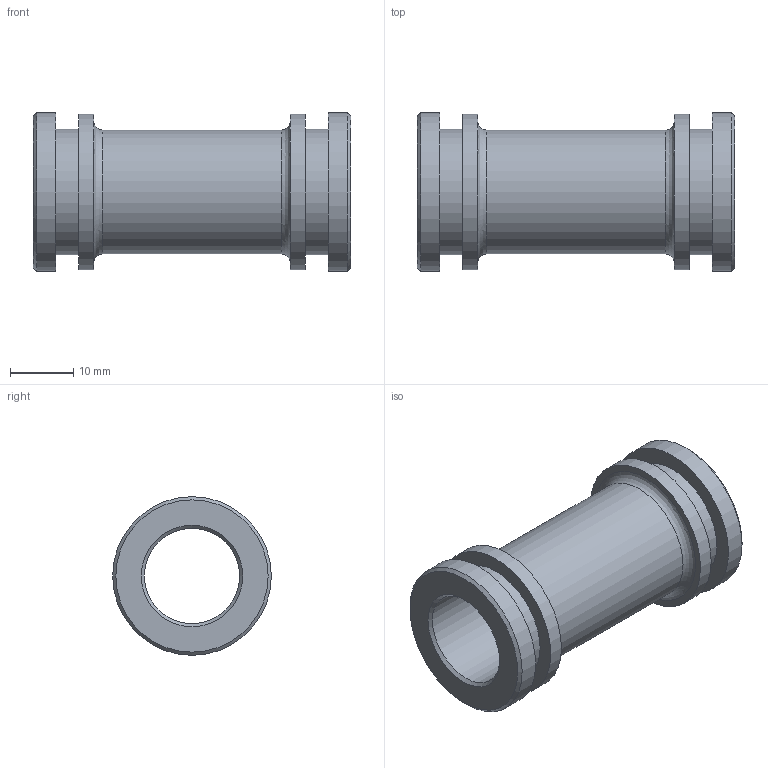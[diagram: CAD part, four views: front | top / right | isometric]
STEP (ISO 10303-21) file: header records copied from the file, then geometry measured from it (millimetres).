
FILE_DESCRIPTION((''),'2;1');
FILE_NAME('N:\CAD\ARCHIV\5350 (-999)\Standardhülsen\5350.015.050\Kundenteil 3D\5350.015.050 Kunden.stp','2009-02-13T08:49:23',('HWalkhoff'),(''),'Autodesk Inventor 2009','Autodesk Inventor 2009','');
FILE_SCHEMA(('AUTOMOTIVE_DESIGN { 1 0 10303 214 1 1 1 1 }'));
Length unit declared in the file: millimetre
Products named in the file (1): Hülse für Kunden
Bounding box: 50 x 25 x 25 mm (x, y, z)
Volume: 8344.4 mm3; surface area: 7147.2 mm2
Topology: 1 solids, 1 shells, 22 faces, 36 edges, 22 vertices
Faces by surface type: cylinder 8, plane 8, cone 4, bspline 2
Full cylindrical faces by diameter (mm): 15 x1, 19.5 x1, 19.76 x2, 24.5 x2, 25 x2
Entity records: 554 total; most frequent: CARTESIAN_POINT 155, DIRECTION 86, ORIENTED_EDGE 44, EDGE_LOOP 44, AXIS2_PLACEMENT_3D 43, VERTEX_POINT 22, CIRCLE 22, EDGE_CURVE 22
